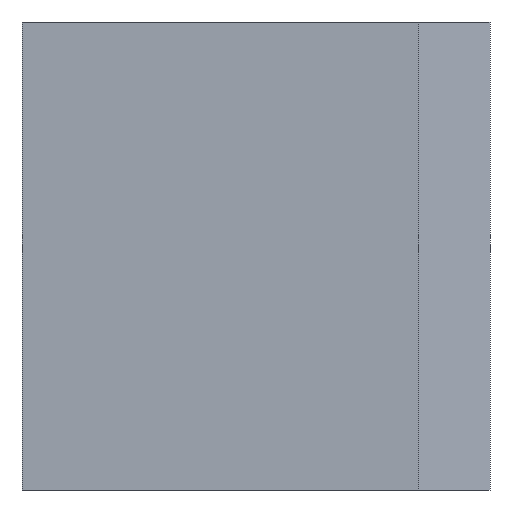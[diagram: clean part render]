
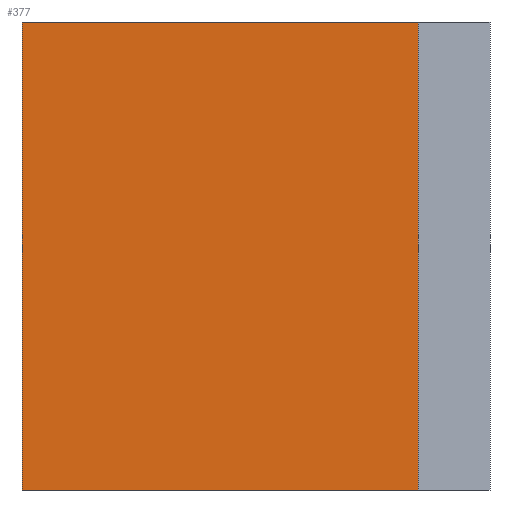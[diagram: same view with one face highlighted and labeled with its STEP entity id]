
A CAD part, left-side view. The second image highlights one B-rep face of the part: STEP entity #377.
In plain terms, the highlighted planar face has unit normal (-1, 0, 0).
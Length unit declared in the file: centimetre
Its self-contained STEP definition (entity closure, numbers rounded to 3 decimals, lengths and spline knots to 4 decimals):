
#1 = FACE_OUTER_BOUND ( 'NONE', #237, .T. ) ;
#7 = PLANE ( 'NONE',  #315 ) ;
#15 = VERTEX_POINT ( 'NONE', #213 ) ;
#26 = DIRECTION ( 'NONE',  ( 0., 0., -1. ) ) ;
#34 = CARTESIAN_POINT ( 'NONE',  ( 0., 1000., 1000. ) ) ;
#47 = DIRECTION ( 'NONE',  ( 0., 0., -1. ) ) ;
#62 = CARTESIAN_POINT ( 'NONE',  ( 0., 153.4861, 0. ) ) ;
#77 = DIRECTION ( 'NONE',  ( 0., -1., 0. ) ) ;
#95 = VECTOR ( 'NONE', #26, 100. ) ;
#99 = VECTOR ( 'NONE', #47, 100. ) ;
#105 = ORIENTED_EDGE ( 'NONE', *, *, #230, .T. ) ;
#113 = CARTESIAN_POINT ( 'NONE',  ( 0., 1000., 1000. ) ) ;
#118 = VECTOR ( 'NONE', #165, 100. ) ;
#122 = ORIENTED_EDGE ( 'NONE', *, *, #368, .F. ) ;
#135 = CARTESIAN_POINT ( 'NONE',  ( 0., 1000., 1000. ) ) ;
#136 = LINE ( 'NONE', #34, #95 ) ;
#148 = VERTEX_POINT ( 'NONE', #62 ) ;
#160 = EDGE_CURVE ( 'NONE', #372, #15, #136, .T. ) ;
#165 = DIRECTION ( 'NONE',  ( 0., -1., 0. ) ) ;
#185 = CARTESIAN_POINT ( 'NONE',  ( 0., 1000., 0. ) ) ;
#197 = CARTESIAN_POINT ( 'NONE',  ( 0., 1000., 1000. ) ) ;
#201 = DIRECTION ( 'NONE',  ( 1., 0., 0. ) ) ;
#209 = CARTESIAN_POINT ( 'NONE',  ( 0., 153.4861, 1000. ) ) ;
#213 = CARTESIAN_POINT ( 'NONE',  ( 0., 1000., 0. ) ) ;
#224 = DIRECTION ( 'NONE',  ( 0., 0., -1. ) ) ;
#227 = VERTEX_POINT ( 'NONE', #209 ) ;
#230 = EDGE_CURVE ( 'NONE', #15, #148, #331, .T. ) ;
#237 = EDGE_LOOP ( 'NONE', ( #105, #320, #122, #240 ) ) ;
#240 = ORIENTED_EDGE ( 'NONE', *, *, #160, .T. ) ;
#278 = VECTOR ( 'NONE', #77, 100. ) ;
#298 = EDGE_CURVE ( 'NONE', #227, #148, #306, .T. ) ;
#303 = CARTESIAN_POINT ( 'NONE',  ( 0., 153.4861, 0. ) ) ;
#306 = LINE ( 'NONE', #303, #99 ) ;
#315 = AXIS2_PLACEMENT_3D ( 'NONE', #113, #201, #224 ) ;
#320 = ORIENTED_EDGE ( 'NONE', *, *, #298, .F. ) ;
#323 = LINE ( 'NONE', #135, #118 ) ;
#331 = LINE ( 'NONE', #185, #278 ) ;
#368 = EDGE_CURVE ( 'NONE', #372, #227, #323, .T. ) ;
#372 = VERTEX_POINT ( 'NONE', #197 ) ;
#377 = ADVANCED_FACE ( 'NONE', ( #1 ), #7, .F. ) ;
